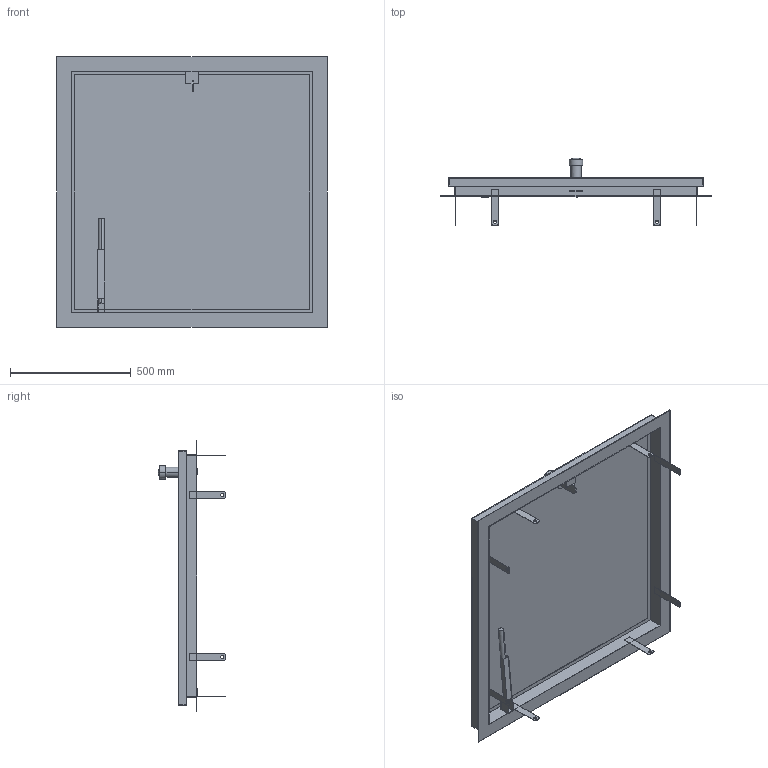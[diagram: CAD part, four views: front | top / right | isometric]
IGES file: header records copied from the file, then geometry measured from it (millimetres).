
Start section:  PTC IGES file: 52335836.igs
Global section: file name: 52335836.igs; native system: Creo Parametric by PTC Inc.; preprocessor: 2022162; author: wep; organization: Unknown; date: 20241219.074005; units: millimetre
Bounding box: 1120 x 279 x 1120 mm (x, y, z)
Surface area: 3746750.5 mm2 (no closed solid volume)
Topology: 0 solids, 0 shells, 728 faces, 3966 edges, 3964 vertices
Faces by surface type: bspline 416, extrusion 275, revolution 37
